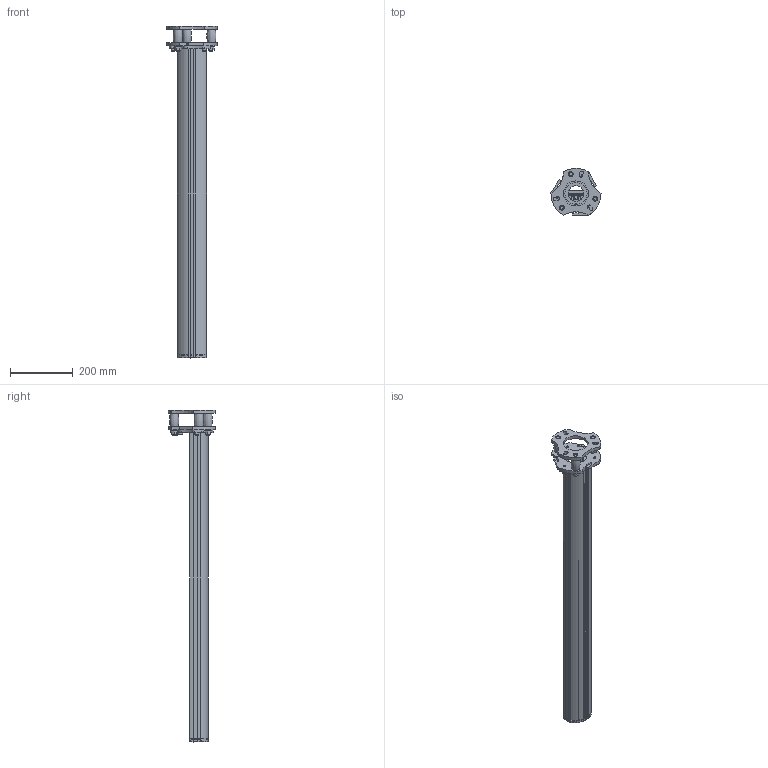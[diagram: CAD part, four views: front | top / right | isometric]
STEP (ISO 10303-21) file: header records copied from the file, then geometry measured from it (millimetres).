
FILE_DESCRIPTION((''),'2;1');
FILE_NAME('M:\INVENTORjob\Konstruktion\Ó\dulen\Baugruppe\Bauraummodelle\stp\549780_UMC-1000-S2.stp','2012-07-11T10:13:00',('seisen'),(''),'Autodesk Inventor 2009','Autodesk Inventor 2009','');
FILE_SCHEMA(('AUTOMOTIVE_DESIGN { 1 0 10303 214 1 1 1 1 }'));
Length unit declared in the file: millimetre
Products named in the file (23): 549780_UMC-1000-S2; 549780_UMC-1000-S21; 549780_UMC-1000-S22; 549780_UMC-1000-S23; 549780_UMC-1000-S24; 549780_UMC-1000-S25; 549780_UMC-1000-S26; 549780_UMC-1000-S27; 549780_UMC-1000-S28; 549780_UMC-1000-S29; 549780_UMC-1000-S210; 549780_UMC-1000-S211; 549780_UMC-1000-S212; 549780_UMC-1000-S213; 549780_UMC-1000-S214; 549780_UMC-1000-S215; 549780_UMC-1000-S216; 549780_UMC-1000-S217; 549780_UMC-1000-S218; 549780_UMC-1000-S219; 549780_UMC-1000-S220; 549780_UMC-1000-S221; 549780_UMC-1000-S222
Assembly tree (22 placements, depth 2):
  549780_UMC-1000-S2
    549780_UMC-1000-S21
    549780_UMC-1000-S22
    549780_UMC-1000-S23
    549780_UMC-1000-S24
    549780_UMC-1000-S25
    549780_UMC-1000-S26
    549780_UMC-1000-S27
    549780_UMC-1000-S28
    549780_UMC-1000-S29
    549780_UMC-1000-S210
    549780_UMC-1000-S211
    549780_UMC-1000-S212
    549780_UMC-1000-S213
    549780_UMC-1000-S214
    549780_UMC-1000-S215
    549780_UMC-1000-S216
    549780_UMC-1000-S217
    549780_UMC-1000-S218
    549780_UMC-1000-S219
    549780_UMC-1000-S220
    549780_UMC-1000-S221
    549780_UMC-1000-S222
Bounding box: 160 x 150.44 x 1059.98 mm (x, y, z)
Volume: 1749214 mm3; surface area: 1184203.7 mm2
Topology: 22 solids, 23 shells, 415 faces, 1029 edges, 677 vertices
Faces by surface type: plane 172, cylinder 142, bspline 77, cone 19, torus 4, revolution 1
Full cylindrical faces by diameter (mm): 5.4 x1, 6 x1, 6.43 x7, 6.7 x3, 8 x3, 8.4 x3, 10 x6, 10.5 x3, 10.628 x3, 11 x3, 11.5 x3, 12.2 x1, 13 x3, 15 x4, 15.2 x1, 15.5 x3, 16 x3, 22 x3, 49.93 x1, 70.626 x1, 79.93 x1
Entity records: 13340 total; most frequent: CARTESIAN_POINT 3061, DIRECTION 2009, ORIENTED_EDGE 1872, EDGE_CURVE 936, AXIS2_PLACEMENT_3D 729, VERTEX_POINT 674, EDGE_LOOP 596, VECTOR 550
